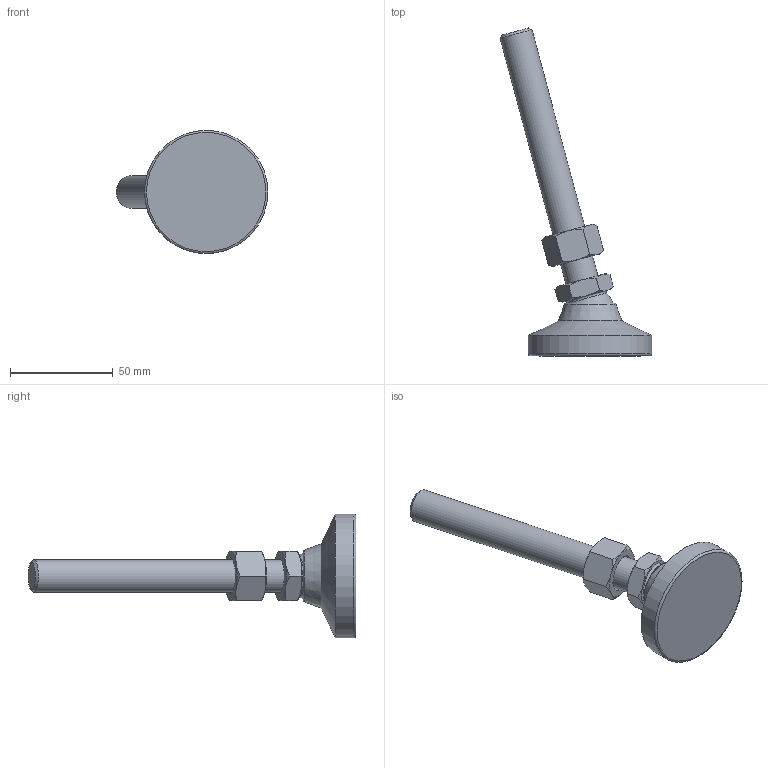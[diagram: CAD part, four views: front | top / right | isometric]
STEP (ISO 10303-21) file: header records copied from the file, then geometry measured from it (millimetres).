
FILE_DESCRIPTION( ( 'STEP AP214' ), ' ' );
FILE_NAME( 'O:/ganter_2015/teil_2/2_5/gn343_2/gn343_2_kr/Levelling foot with threaded stud GN 343.2-60-M16-125-KR-(15).stp', '2015-10-26T09:14:30', ( '' ), ( '' ), ' ', 'PARTsolutions', ' ' );
FILE_SCHEMA( ( 'AUTOMOTIVE_DESIGN { 1 0 10303 214 1 1 1 1 }' ) );
Length unit declared in the file: millimetre
Products named in the file (4): Levelling foot with threaded stud GN 343.2-60-M16-125-KR-(15); _Levelling foot with threaded stud GN 343.2-60-M16-125-KR-(15)_foot; _Levelling foot with threaded stud GN 343.2-60-M16-125-KR-(15)_screw; _Levelling foot with threaded stud GN 343.2-60-M16-125-KR-(15)_nut
Assembly tree (3 placements, depth 2):
  Levelling foot with threaded stud GN 343.2-60-M16-125-KR-(15)
    _Levelling foot with threaded stud GN 343.2-60-M16-125-KR-(15)_foot
    _Levelling foot with threaded stud GN 343.2-60-M16-125-KR-(15)_screw
    _Levelling foot with threaded stud GN 343.2-60-M16-125-KR-(15)_nut
Bounding box: 73.77 x 159.47 x 60 mm (x, y, z)
Volume: 80738.2 mm3; surface area: 20362 mm2
Topology: 3 solids, 3 shells, 56 faces, 117 edges, 68 vertices
Faces by surface type: cone 29, plane 19, torus 3, cylinder 3, sphere 2
Full cylindrical faces by diameter (mm): 13.835 x1, 16 x1, 60 x1
Entity records: 2082 total; most frequent: CARTESIAN_POINT 514, DIRECTION 212, ORIENTED_EDGE 200, AXIS2_PLACEMENT_3D 100, EDGE_CURVE 100, EDGE_LOOP 72, VERTEX_POINT 66, FACE_OUTER_BOUND 62
